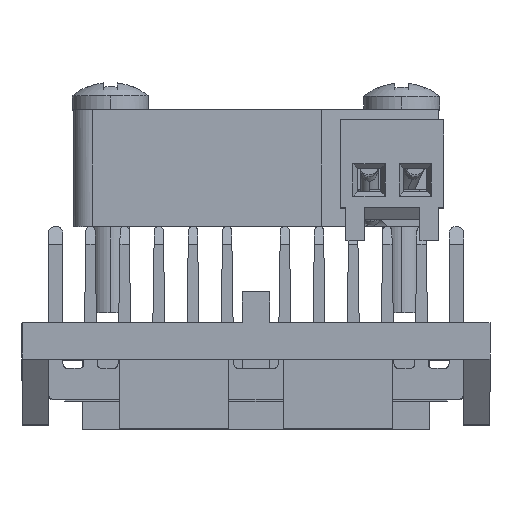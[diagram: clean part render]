
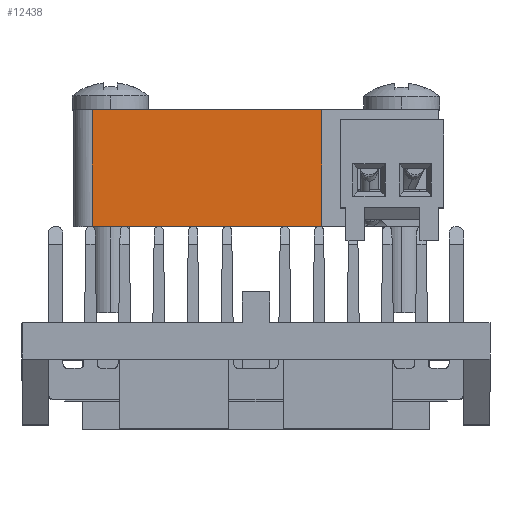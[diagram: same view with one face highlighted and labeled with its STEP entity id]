
A CAD part, top view. The second image highlights one B-rep face of the part: STEP entity #12438.
In plain terms, the highlighted planar face has unit normal (0, 0, 1).
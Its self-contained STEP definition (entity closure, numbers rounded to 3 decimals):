
#2102 = EDGE_CURVE ( 'NONE', #3016, #8689, #7373, .T. ) ;
#2139 = VECTOR ( 'NONE', #11332, 1000. ) ;
#2295 = LINE ( 'NONE', #18309, #9851 ) ;
#2497 = ORIENTED_EDGE ( 'NONE', *, *, #13553, .F. ) ;
#2606 = PLANE ( 'NONE',  #8346 ) ;
#3016 = VERTEX_POINT ( 'NONE', #3873 ) ;
#3566 = CARTESIAN_POINT ( 'NONE',  ( 2.181, 6.153, 13.073 ) ) ;
#3716 = LINE ( 'NONE', #6946, #8071 ) ;
#3873 = CARTESIAN_POINT ( 'NONE',  ( -10.419, 6.153, 13.073 ) ) ;
#3919 = ORIENTED_EDGE ( 'NONE', *, *, #9518, .F. ) ;
#4901 = CARTESIAN_POINT ( 'NONE',  ( 8.581, 12.653, 13.073 ) ) ;
#6447 = DIRECTION ( 'NONE',  ( 0., 0., -1. ) ) ;
#6666 = CARTESIAN_POINT ( 'NONE',  ( -10.419, 12.553, 13.073 ) ) ;
#6946 = CARTESIAN_POINT ( 'NONE',  ( 2.181, 12.653, 13.073 ) ) ;
#7373 = LINE ( 'NONE', #20145, #14463 ) ;
#8071 = VECTOR ( 'NONE', #14947, 1000. ) ;
#8346 = AXIS2_PLACEMENT_3D ( 'NONE', #4901, #6447, #11290 ) ;
#8689 = VERTEX_POINT ( 'NONE', #6666 ) ;
#9518 = EDGE_CURVE ( 'NONE', #17509, #3016, #12890, .T. ) ;
#9851 = VECTOR ( 'NONE', #16431, 1000. ) ;
#10600 = EDGE_CURVE ( 'NONE', #8689, #17573, #2295, .T. ) ;
#10742 = ORIENTED_EDGE ( 'NONE', *, *, #10600, .F. ) ;
#11290 = DIRECTION ( 'NONE',  ( 0., -1., 0. ) ) ;
#11332 = DIRECTION ( 'NONE',  ( -1., 0., 0. ) ) ;
#12249 = CARTESIAN_POINT ( 'NONE',  ( 2.181, 12.553, 13.073 ) ) ;
#12438 = ADVANCED_FACE ( 'NONE', ( #16846 ), #2606, .F. ) ;
#12890 = LINE ( 'NONE', #19475, #2139 ) ;
#13548 = DIRECTION ( 'NONE',  ( 0., 1., 0. ) ) ;
#13553 = EDGE_CURVE ( 'NONE', #17573, #17509, #3716, .T. ) ;
#14463 = VECTOR ( 'NONE', #13548, 1000. ) ;
#14947 = DIRECTION ( 'NONE',  ( 0., -1., 0. ) ) ;
#15038 = ORIENTED_EDGE ( 'NONE', *, *, #2102, .F. ) ;
#15703 = EDGE_LOOP ( 'NONE', ( #10742, #15038, #3919, #2497 ) ) ;
#16431 = DIRECTION ( 'NONE',  ( 1., 0., 0. ) ) ;
#16846 = FACE_OUTER_BOUND ( 'NONE', #15703, .T. ) ;
#17509 = VERTEX_POINT ( 'NONE', #3566 ) ;
#17573 = VERTEX_POINT ( 'NONE', #12249 ) ;
#18309 = CARTESIAN_POINT ( 'NONE',  ( 8.581, 12.553, 13.073 ) ) ;
#19475 = CARTESIAN_POINT ( 'NONE',  ( -1.419, 6.153, 13.073 ) ) ;
#20145 = CARTESIAN_POINT ( 'NONE',  ( -10.419, 12.653, 13.073 ) ) ;
